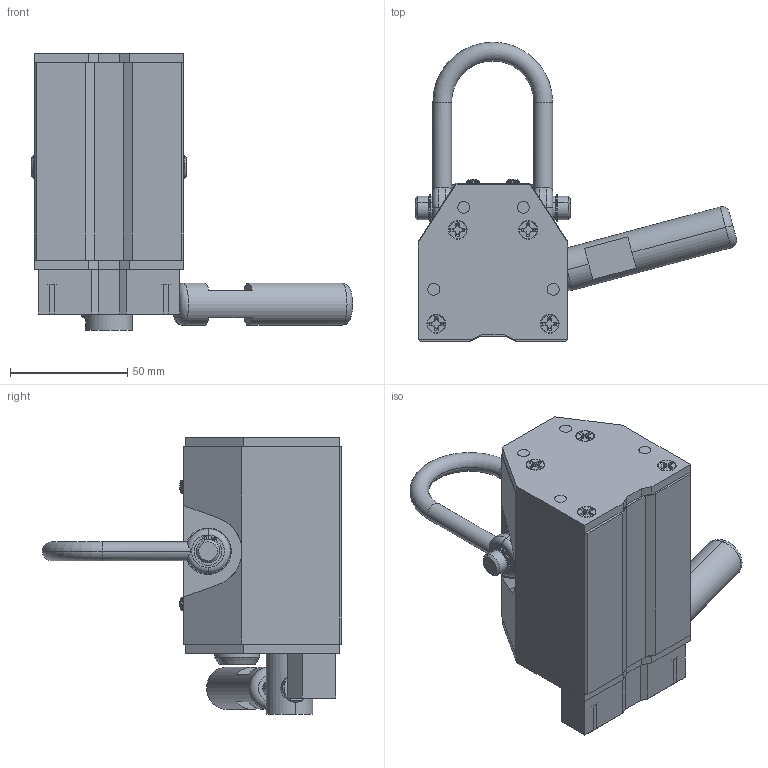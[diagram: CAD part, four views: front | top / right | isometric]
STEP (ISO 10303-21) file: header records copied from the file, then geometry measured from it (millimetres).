
FILE_DESCRIPTION (( 'STEP AP203' ), '1' );
FILE_NAME ('PNL0250.STEP', '2018-08-02T19:36:05', ( '' ), ( '' ), 'SwSTEP 2.0', 'SolidWorks 2015', '' );
FILE_SCHEMA (( 'CONFIG_CONTROL_DESIGN' ));
Products named in the file (1): PNL0250
Bounding box: 136.7 x 127.5 x 117.94 mm (x, y, z)
Volume: 376863.8 mm3; surface area: 138693.7 mm2
Topology: 50 solids, 50 shells, 3683 faces, 9364 edges, 5918 vertices
Faces by surface type: cylinder 1176, plane 1111, cone 1024, bspline 338, torus 34
Entity records: 157721 total; most frequent: CARTESIAN_POINT 74692, ORIENTED_EDGE 18728, DIRECTION 15126, EDGE_CURVE 9364, VERTEX_POINT 5918, AXIS2_PLACEMENT_3D 5274, LINE 4578, VECTOR 4578
